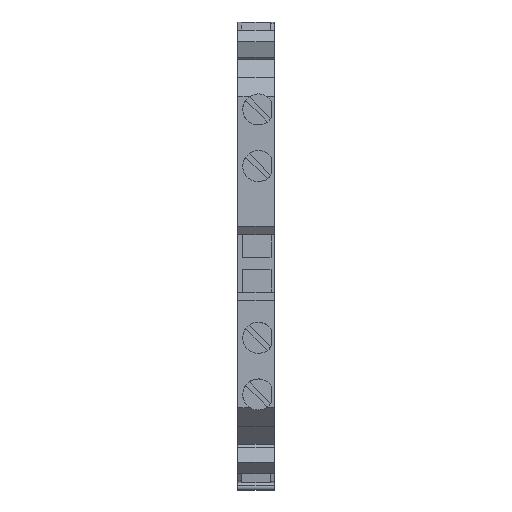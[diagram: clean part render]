
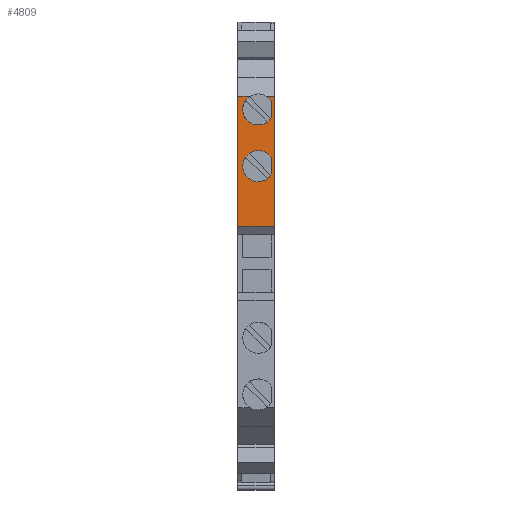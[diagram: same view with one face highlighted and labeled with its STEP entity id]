
A CAD part, top view. The second image highlights one B-rep face of the part: STEP entity #4809.
In plain terms, the highlighted planar face has unit normal (0, 0, 1).
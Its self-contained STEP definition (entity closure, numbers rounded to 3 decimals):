
#650=CARTESIAN_POINT('',(-0.,36.8,46.85));
#651=VERTEX_POINT('',#650);
#658=CARTESIAN_POINT('',(-0.,55.,46.85));
#659=VERTEX_POINT('',#658);
#660=CARTESIAN_POINT('',(-0.,36.8,46.85));
#661=DIRECTION('',(-0.,1.,-0.));
#662=VECTOR('',#661,18.2);
#663=LINE('',#660,#662);
#664=EDGE_CURVE('',#651,#659,#663,.T.);
#987=CARTESIAN_POINT('',(5.15,55.,46.85));
#988=VERTEX_POINT('',#987);
#995=CARTESIAN_POINT('',(5.15,36.8,46.85));
#996=VERTEX_POINT('',#995);
#997=CARTESIAN_POINT('',(5.15,36.8,46.85));
#998=DIRECTION('',(-0.,1.,-0.));
#999=VECTOR('',#998,18.2);
#1000=LINE('',#997,#999);
#1001=EDGE_CURVE('',#996,#988,#1000,.T.);
#1898=CARTESIAN_POINT('',(5.15,36.8,46.85));
#1899=DIRECTION('',(-1.,-0.,0.));
#1900=VECTOR('',#1899,5.15);
#1901=LINE('',#1898,#1900);
#1902=EDGE_CURVE('',#996,#651,#1901,.T.);
#4722=CARTESIAN_POINT('',(0.,54.379,46.85));
#4723=DIRECTION('',(-0.,-0.,-1.));
#4724=DIRECTION('',(-0.,1.,-0.));
#4725=AXIS2_PLACEMENT_3D('',#4722,#4723,#4724);
#4726=PLANE('',#4725);
#4727=CARTESIAN_POINT('',(4.8,44.141,46.85));
#4728=VERTEX_POINT('',#4727);
#4729=CARTESIAN_POINT('',(2.9,43.025,46.85));
#4730=VERTEX_POINT('',#4729);
#4731=CARTESIAN_POINT('',(2.9,45.2,46.85));
#4732=DIRECTION('',(-0.,-0.,-1.));
#4733=DIRECTION('',(-0.,1.,-0.));
#4734=AXIS2_PLACEMENT_3D('',#4731,#4732,#4733);
#4735=CIRCLE('',#4734,2.175);
#4736=EDGE_CURVE('',#4728,#4730,#4735,.T.);
#4737=ORIENTED_EDGE('',*,*,#4736,.T.);
#4738=CARTESIAN_POINT('',(4.8,46.259,46.85));
#4739=VERTEX_POINT('',#4738);
#4740=CARTESIAN_POINT('',(2.9,45.2,46.85));
#4741=DIRECTION('',(-0.,-0.,-1.));
#4742=DIRECTION('',(-0.,1.,-0.));
#4743=AXIS2_PLACEMENT_3D('',#4740,#4741,#4742);
#4744=CIRCLE('',#4743,2.175);
#4745=EDGE_CURVE('',#4730,#4739,#4744,.T.);
#4746=ORIENTED_EDGE('',*,*,#4745,.T.);
#4747=CARTESIAN_POINT('',(4.8,44.141,46.85));
#4748=DIRECTION('',(-0.,1.,-0.));
#4749=VECTOR('',#4748,2.117);
#4750=LINE('',#4747,#4749);
#4751=EDGE_CURVE('',#4728,#4739,#4750,.T.);
#4752=ORIENTED_EDGE('',*,*,#4751,.F.);
#4753=EDGE_LOOP('',(#4737,#4746,#4752));
#4754=FACE_BOUND('',#4753,.T.);
#4755=ORIENTED_EDGE('',*,*,#1001,.T.);
#4756=CARTESIAN_POINT('',(4.002,55.,46.85));
#4757=VERTEX_POINT('',#4756);
#4758=CARTESIAN_POINT('',(5.15,55.,46.85));
#4759=DIRECTION('',(-1.,-0.,0.));
#4760=VECTOR('',#4759,1.148);
#4761=LINE('',#4758,#4760);
#4762=EDGE_CURVE('',#988,#4757,#4761,.T.);
#4763=ORIENTED_EDGE('',*,*,#4762,.T.);
#4764=CARTESIAN_POINT('',(4.8,54.184,46.85));
#4765=VERTEX_POINT('',#4764);
#4766=CARTESIAN_POINT('',(2.9,53.125,46.85));
#4767=DIRECTION('',(-0.,-0.,-1.));
#4768=DIRECTION('',(-0.,1.,-0.));
#4769=AXIS2_PLACEMENT_3D('',#4766,#4767,#4768);
#4770=CIRCLE('',#4769,2.175);
#4771=EDGE_CURVE('',#4757,#4765,#4770,.T.);
#4772=ORIENTED_EDGE('',*,*,#4771,.T.);
#4773=CARTESIAN_POINT('',(4.8,52.066,46.85));
#4774=VERTEX_POINT('',#4773);
#4775=CARTESIAN_POINT('',(4.8,52.066,46.85));
#4776=DIRECTION('',(-0.,1.,-0.));
#4777=VECTOR('',#4776,2.117);
#4778=LINE('',#4775,#4777);
#4779=EDGE_CURVE('',#4774,#4765,#4778,.T.);
#4780=ORIENTED_EDGE('',*,*,#4779,.F.);
#4781=CARTESIAN_POINT('',(2.9,50.95,46.85));
#4782=VERTEX_POINT('',#4781);
#4783=CARTESIAN_POINT('',(2.9,53.125,46.85));
#4784=DIRECTION('',(-0.,-0.,-1.));
#4785=DIRECTION('',(-0.,1.,-0.));
#4786=AXIS2_PLACEMENT_3D('',#4783,#4784,#4785);
#4787=CIRCLE('',#4786,2.175);
#4788=EDGE_CURVE('',#4774,#4782,#4787,.T.);
#4789=ORIENTED_EDGE('',*,*,#4788,.T.);
#4790=CARTESIAN_POINT('',(1.798,55.,46.85));
#4791=VERTEX_POINT('',#4790);
#4792=CARTESIAN_POINT('',(2.9,53.125,46.85));
#4793=DIRECTION('',(-0.,-0.,-1.));
#4794=DIRECTION('',(-0.,1.,-0.));
#4795=AXIS2_PLACEMENT_3D('',#4792,#4793,#4794);
#4796=CIRCLE('',#4795,2.175);
#4797=EDGE_CURVE('',#4782,#4791,#4796,.T.);
#4798=ORIENTED_EDGE('',*,*,#4797,.T.);
#4799=CARTESIAN_POINT('',(1.798,55.,46.85));
#4800=DIRECTION('',(-1.,-0.,0.));
#4801=VECTOR('',#4800,1.798);
#4802=LINE('',#4799,#4801);
#4803=EDGE_CURVE('',#4791,#659,#4802,.T.);
#4804=ORIENTED_EDGE('',*,*,#4803,.T.);
#4805=ORIENTED_EDGE('',*,*,#664,.F.);
#4806=ORIENTED_EDGE('',*,*,#1902,.F.);
#4807=EDGE_LOOP('',(#4755,#4763,#4772,#4780,#4789,#4798,#4804,#4805,#4806));
#4808=FACE_BOUND('',#4807,.T.);
#4809=ADVANCED_FACE('',(#4754,#4808),#4726,.F.);
